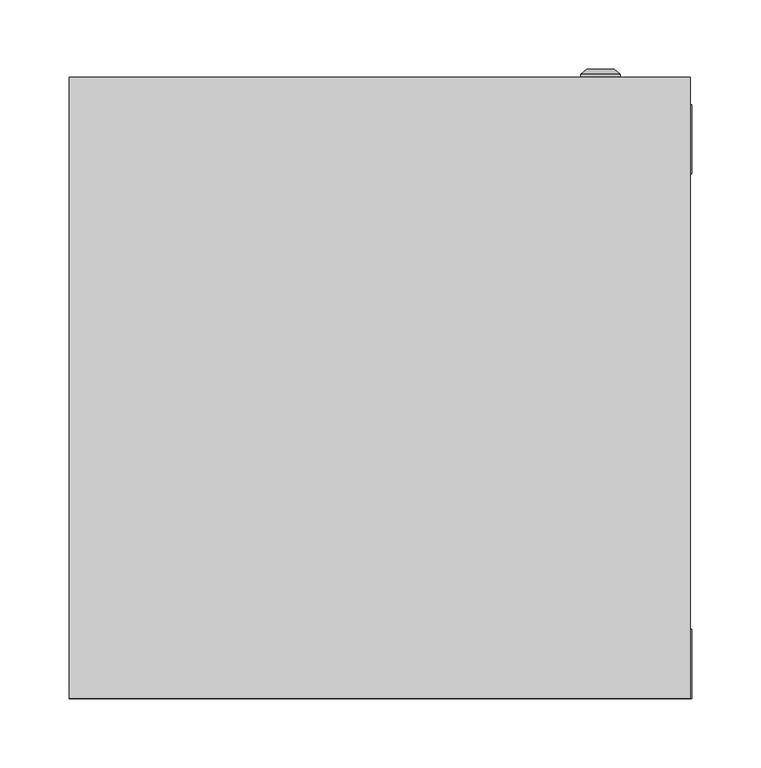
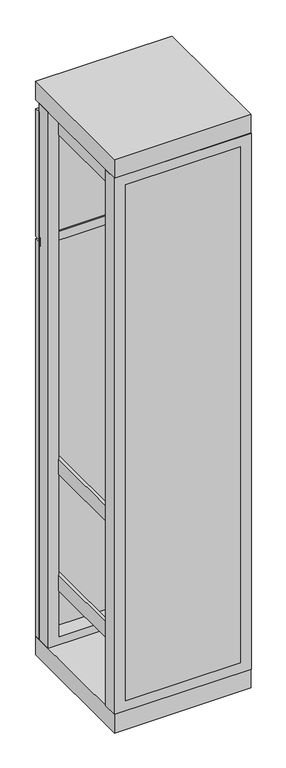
"""IFC4 building model written with IfcOpenShell, lengths in millimetres: proxy geometry, ВРУ-2 : ВРУ-2_2000х450х450."""

from ifc_helpers import new_model, si_unit, frame, origin, origin_with_axes, place, context, project, spatial, polyline, circle_curve, outline, extrude, source, transform, mapped, element, save
from ifc_brep_helpers import plane_surface, cylinder_surface, revolved_surface, advanced_brep


def electrical_equipment_1adb9329(model_context):
    return source(origin(), model_context, "Body", "SolidModel", [
        extrude(outline(polyline([(225.0, 425.0), (-225.0, 425.0), (-225.0, 430.0), (225.0, 430.0), (225.0, 425.0)])), frame((0.0, 0.0, 1440.0), z_axis=(0.0, 0.0, 1.0), x_axis=(1.0, 0.0, 0.0)), (0.0, 0.0, 1.0), 30.0),
        advanced_brep(
        [(145.669873, 450.0, 1680.0), (174.330127, 450.0, 1680.0), (160.0, 450.0, 1680.0), (145.669873, 452.366592, 1680.0), (174.330127, 452.366592, 1680.0), (150.0, 456.0, 1680.0), (170.0, 456.0, 1680.0), (158.1080471, 456.0, 1680.0), (161.8919529, 456.0, 1680.0), (158.1080471, 454.9822294, 1680.0), (161.8919529, 454.9822294, 1680.0), (160.0, 454.9822294, 1680.0)],
        [
            (0, 1, circle_curve(frame((160.0, 450.0, 1680.0), z_axis=(0.0, -1.0, 0.0), x_axis=(1.0, 0.0, 0.0)), 14.330127)),
            (1, 2),
            (2, 0),
            (1, 0, circle_curve(frame((160.0, 450.0, 1680.0), z_axis=(0.0, -1.0, 0.0), x_axis=(1.0, 0.0, 0.0)), 14.330127)),
            (3, 4, circle_curve(frame((160.0, 452.366592, 1680.0), z_axis=(0.0, -1.0, 0.0), x_axis=(1.0, 0.0, 0.0)), 14.330127)),
            (4, 1),
            (0, 3),
            (4, 3, circle_curve(frame((160.0, 452.366592, 1680.0), z_axis=(0.0, -1.0, 0.0), x_axis=(1.0, 0.0, 0.0)), 14.330127)),
            (5, 6, circle_curve(frame((160.0, 456.0, 1680.0), z_axis=(0.0, -1.0, 0.0), x_axis=(1.0, 0.0, 0.0)), 10.0)),
            (6, 4),
            (3, 5),
            (6, 5, circle_curve(frame((160.0, 456.0, 1680.0), z_axis=(0.0, -1.0, 0.0), x_axis=(1.0, 0.0, 0.0)), 10.0)),
            (7, 8, circle_curve(frame((160.0, 456.0, 1680.0), z_axis=(0.0, -1.0, 0.0), x_axis=(1.0, 0.0, 0.0)), 1.8919529)),
            (8, 6),
            (5, 7),
            (8, 7, circle_curve(frame((160.0, 456.0, 1680.0), z_axis=(0.0, -1.0, 0.0), x_axis=(1.0, 0.0, 0.0)), 1.8919529)),
            (9, 10, circle_curve(frame((160.0, 454.9822294, 1680.0), z_axis=(0.0, -1.0, 0.0), x_axis=(1.0, 0.0, 0.0)), 1.8919529)),
            (10, 8),
            (7, 9),
            (10, 9, circle_curve(frame((160.0, 454.9822294, 1680.0), z_axis=(0.0, -1.0, 0.0), x_axis=(1.0, 0.0, 0.0)), 1.8919529)),
            (11, 10),
            (9, 11),
        ],
        [
            plane_surface(frame((160.0, 450.0, 1680.0), z_axis=(0.0, -1.0, 0.0), x_axis=(1.0, 0.0, 0.0))),
            cylinder_surface(frame((160.0, 463.1348851, 1680.0), z_axis=(0.0, 1.0, 0.0), x_axis=(1.0, 0.0, 0.0)), 14.330127),
            revolved_surface(polyline([(174.330127, 452.366592, 1680.0), (170.0, 456.0, 1680.0)]), (160.0, 463.1348851, 1680.0), (0.0, 1.0, 0.0)),
            plane_surface(frame((160.0, 456.0, 1680.0), z_axis=(0.0, 1.0, 0.0), x_axis=(1.0, 0.0, 0.0))),
            revolved_surface(polyline([(161.8919529, 456.0, 1680.0), (161.8919529, 454.9822294, 1680.0)]), (160.0, 463.1348851, 1680.0), (0.0, 1.0, 0.0)),
            plane_surface(frame((160.0, 454.9822294, 1680.0), z_axis=(0.0, 1.0, 0.0), x_axis=(1.0, 0.0, 0.0))),
        ],
        [
            (0, [[1, 2, 3]]),
            (0, [[4, -3, -2]]),
            (1, [[5, 6, -1, 7]]),
            (1, [[8, -7, -4, -6]]),
            (2, [[9, 10, -5, 11]]),
            (2, [[12, -11, -8, -10]]),
            (3, [[13, 14, -9, 15]]),
            (3, [[16, -15, -12, -14]]),
            (4, [[17, 18, -13, 19]]),
            (4, [[20, -19, -16, -18]]),
            (5, [[21, -17, 22]]),
            (5, [[-22, -20, -21]]),
        ],
    ),
        extrude(outline(polyline([(225.0, 430.0), (-225.0, 430.0), (-225.0, 450.0), (225.0, 450.0), (225.0, 430.0)])), frame((0.0, 0.0, 1460.0), z_axis=(0.0, 0.0, 1.0), x_axis=(1.0, 0.0, 0.0)), (0.0, 0.0, 1.0), 445.0),
        extrude(outline(polyline([(190.8707865, 0.0), (-188.3426966, 0.0), (-188.3426966, 10.0), (190.8707865, 10.0), (190.8707865, 0.0)])), frame((0.0, 0.0, 99.1378449), z_axis=(0.0, 0.0, 1.0), x_axis=(1.0, 0.0, 0.0)), (0.0, 0.0, 1.0), 1799.6160511),
        extrude(outline(polyline([(-180.8707865, 125.9831461), (-140.8707865, 125.9831461), (-140.8707865, 93.1179775), (-143.8707865, 93.1179775), (-143.8707865, 122.9831461), (-177.8707865, 122.9831461), (-177.8707865, 93.1179775), (-180.8707865, 93.1179775), (-180.8707865, 125.9831461)])), frame((0.0, 0.0, 189.6067416), z_axis=(0.0, 0.0, 1.0), x_axis=(1.0, 0.0, 0.0)), (0.0, 0.0, 1.0), 1745.3932584),
        extrude(outline(polyline([(140.8707865, 125.9831461), (180.8707865, 125.9831461), (180.8707865, 93.1179775), (177.8707865, 93.1179775), (177.8707865, 122.9831461), (143.8707865, 122.9831461), (143.8707865, 93.1179775), (140.8707865, 93.1179775), (140.8707865, 125.9831461)])), frame((0.0, 0.0, 189.6067416), z_axis=(0.0, 0.0, 1.0), x_axis=(1.0, 0.0, 0.0)), (0.0, 0.0, 1.0), 1745.3932584),
        extrude(outline(polyline([(-180.8707865, 10.0), (-190.8707865, 10.0), (-190.8707865, 430.0), (-180.8707865, 430.0), (-180.8707865, 10.0)])), frame((0.0, 0.0, 1845.5966059), z_axis=(0.0, 0.0, 1.0), x_axis=(1.0, 0.0, 0.0)), (0.0, 0.0, 1.0), 53.0898876),
        extrude(outline(polyline([(190.8707865, 10.0), (180.8707865, 10.0), (180.8707865, 430.0), (190.8707865, 430.0), (190.8707865, 10.0)])), frame((0.0, 0.0, 1845.5966059), z_axis=(0.0, 0.0, 1.0), x_axis=(1.0, 0.0, 0.0)), (0.0, 0.0, 1.0), 53.0898876),
        extrude(outline(polyline([(-180.8707865, 10.0), (-190.8707865, 10.0), (-190.8707865, 430.0), (-180.8707865, 430.0), (-180.8707865, 10.0)])), frame((0.0, 0.0, 255.5966059), z_axis=(0.0, 0.0, 1.0), x_axis=(1.0, 0.0, 0.0)), (0.0, 0.0, 1.0), 53.0898876),
        extrude(outline(polyline([(190.8707865, 10.0), (180.8707865, 10.0), (180.8707865, 430.0), (190.8707865, 430.0), (190.8707865, 10.0)])), frame((0.0, 0.0, 255.5966059), z_axis=(0.0, 0.0, 1.0), x_axis=(1.0, 0.0, 0.0)), (0.0, 0.0, 1.0), 53.0898876),
        extrude(outline(polyline([(-180.8707865, 10.0), (-190.8707865, 10.0), (-190.8707865, 430.0), (-180.8707865, 430.0), (-180.8707865, 10.0)])), frame((0.0, 0.0, 660.5966059), z_axis=(0.0, 0.0, 1.0), x_axis=(1.0, 0.0, 0.0)), (0.0, 0.0, 1.0), 53.0898876),
        extrude(outline(polyline([(190.8707865, 0.0), (180.8707865, 0.0), (180.8707865, 430.0), (190.8707865, 430.0), (190.8707865, 0.0)])), frame((0.0, 0.0, 660.5966059), z_axis=(0.0, 0.0, 1.0), x_axis=(1.0, 0.0, 0.0)), (0.0, 0.0, 1.0), 53.0898876),
        extrude(outline(polyline([(1934.1471543, -225.0), (65.0187804, -225.0), (65.0187804, 226.2640449), (1934.1471543, 226.2640449), (1934.1471543, -225.0)]), holes=[polyline([(99.1378449, 190.8707865), (99.1378449, -188.3426966), (1898.7538959, -188.3426966), (1898.7538959, 190.8707865), (99.1378449, 190.8707865)])]), frame((0.0, 0.0, 0.0), z_axis=(0.0, 1.0, 0.0), x_axis=(0.0, 0.0, 1.0)), (0.0, 0.0, 1.0), 50.0),
        extrude(outline(polyline([(1935.0, -225.0), (65.0187804, -225.0), (65.0187804, 226.2640449), (1935.0, 226.2640449), (1935.0, -225.0)]), holes=[polyline([(93.3701084, 190.8707865), (93.3701084, -188.3426966), (1892.9861595, -188.3426966), (1892.9861595, 190.8707865), (93.3701084, 190.8707865)])]), frame((0.0, 380.0, 0.0), z_axis=(0.0, 1.0, 0.0), x_axis=(0.0, 0.0, 1.0)), (0.0, 0.0, 1.0), 50.0),
        extrude(outline(polyline([(225.0067809, 450.0), (225.0067809, 0.0), (-225.0, 0.0), (-225.0, 450.0), (225.0067809, 450.0)])), frame((0.0, 0.0, 1935.0), z_axis=(0.0, 0.0, 1.0), x_axis=(1.0, 0.0, 0.0)), (0.0, 0.0, 1.0), 65.0),
        advanced_brep(
        [(145.669873, 450.0, 375.0), (174.330127, 450.0, 375.0), (160.0, 450.0, 375.0), (145.669873, 452.366592, 375.0), (174.330127, 452.366592, 375.0), (150.0, 456.0, 375.0), (170.0, 456.0, 375.0), (158.1080471, 456.0, 375.0), (161.8919529, 456.0, 375.0), (158.1080471, 454.9822294, 375.0), (161.8919529, 454.9822294, 375.0), (160.0, 454.9822294, 375.0)],
        [
            (0, 1, circle_curve(frame((160.0, 450.0, 375.0), z_axis=(0.0, -1.0, 0.0), x_axis=(1.0, 0.0, 0.0)), 14.330127)),
            (1, 2),
            (2, 0),
            (1, 0, circle_curve(frame((160.0, 450.0, 375.0), z_axis=(0.0, -1.0, 0.0), x_axis=(1.0, 0.0, 0.0)), 14.330127)),
            (3, 4, circle_curve(frame((160.0, 452.366592, 375.0), z_axis=(0.0, -1.0, 0.0), x_axis=(1.0, 0.0, 0.0)), 14.330127)),
            (4, 1),
            (0, 3),
            (4, 3, circle_curve(frame((160.0, 452.366592, 375.0), z_axis=(0.0, -1.0, 0.0), x_axis=(1.0, 0.0, 0.0)), 14.330127)),
            (5, 6, circle_curve(frame((160.0, 456.0, 375.0), z_axis=(0.0, -1.0, 0.0), x_axis=(1.0, 0.0, 0.0)), 10.0)),
            (6, 4),
            (3, 5),
            (6, 5, circle_curve(frame((160.0, 456.0, 375.0), z_axis=(0.0, -1.0, 0.0), x_axis=(1.0, 0.0, 0.0)), 10.0)),
            (7, 8, circle_curve(frame((160.0, 456.0, 375.0), z_axis=(0.0, -1.0, 0.0), x_axis=(1.0, 0.0, 0.0)), 1.8919529)),
            (8, 6),
            (5, 7),
            (8, 7, circle_curve(frame((160.0, 456.0, 375.0), z_axis=(0.0, -1.0, 0.0), x_axis=(1.0, 0.0, 0.0)), 1.8919529)),
            (9, 10, circle_curve(frame((160.0, 454.9822294, 375.0), z_axis=(0.0, -1.0, 0.0), x_axis=(1.0, 0.0, 0.0)), 1.8919529)),
            (10, 8),
            (7, 9),
            (10, 9, circle_curve(frame((160.0, 454.9822294, 375.0), z_axis=(0.0, -1.0, 0.0), x_axis=(1.0, 0.0, 0.0)), 1.8919529)),
            (11, 10),
            (9, 11),
        ],
        [
            plane_surface(frame((160.0, 450.0, 375.0), z_axis=(0.0, -1.0, 0.0), x_axis=(1.0, 0.0, 0.0))),
            cylinder_surface(frame((160.0, 463.1348851, 375.0), z_axis=(0.0, 1.0, 0.0), x_axis=(1.0, 0.0, 0.0)), 14.330127),
            revolved_surface(polyline([(174.330127, 452.366592, 375.0), (170.0, 456.0, 375.0)]), (160.0, 463.1348851, 375.0), (0.0, 1.0, 0.0)),
            plane_surface(frame((160.0, 456.0, 375.0), z_axis=(0.0, 1.0, 0.0), x_axis=(1.0, 0.0, 0.0))),
            revolved_surface(polyline([(161.8919529, 456.0, 375.0), (161.8919529, 454.9822294, 375.0)]), (160.0, 463.1348851, 375.0), (0.0, 1.0, 0.0)),
            plane_surface(frame((160.0, 454.9822294, 375.0), z_axis=(0.0, 1.0, 0.0), x_axis=(1.0, 0.0, 0.0))),
        ],
        [
            (0, [[1, 2, 3]]),
            (0, [[4, -3, -2]]),
            (1, [[5, 6, -1, 7]]),
            (1, [[8, -7, -4, -6]]),
            (2, [[9, 10, -5, 11]]),
            (2, [[12, -11, -8, -10]]),
            (3, [[13, 14, -9, 15]]),
            (3, [[16, -15, -12, -14]]),
            (4, [[17, 18, -13, 19]]),
            (4, [[20, -19, -16, -18]]),
            (5, [[21, -17, 22]]),
            (5, [[-22, -20, -21]]),
        ],
    ),
        advanced_brep(
        [(145.669873, 450.0, 880.0), (174.330127, 450.0, 880.0), (160.0, 450.0, 880.0), (145.669873, 452.366592, 880.0), (174.330127, 452.366592, 880.0), (150.0, 456.0, 880.0), (170.0, 456.0, 880.0), (158.1080471, 456.0, 880.0), (161.8919529, 456.0, 880.0), (158.1080471, 454.9822294, 880.0), (161.8919529, 454.9822294, 880.0), (160.0, 454.9822294, 880.0)],
        [
            (0, 1, circle_curve(frame((160.0, 450.0, 880.0), z_axis=(0.0, -1.0, 0.0), x_axis=(1.0, 0.0, 0.0)), 14.330127)),
            (1, 2),
            (2, 0),
            (1, 0, circle_curve(frame((160.0, 450.0, 880.0), z_axis=(0.0, -1.0, 0.0), x_axis=(1.0, 0.0, 0.0)), 14.330127)),
            (3, 4, circle_curve(frame((160.0, 452.366592, 880.0), z_axis=(0.0, -1.0, 0.0), x_axis=(1.0, 0.0, 0.0)), 14.330127)),
            (4, 1),
            (0, 3),
            (4, 3, circle_curve(frame((160.0, 452.366592, 880.0), z_axis=(0.0, -1.0, 0.0), x_axis=(1.0, 0.0, 0.0)), 14.330127)),
            (5, 6, circle_curve(frame((160.0, 456.0, 880.0), z_axis=(0.0, -1.0, 0.0), x_axis=(1.0, 0.0, 0.0)), 10.0)),
            (6, 4),
            (3, 5),
            (6, 5, circle_curve(frame((160.0, 456.0, 880.0), z_axis=(0.0, -1.0, 0.0), x_axis=(1.0, 0.0, 0.0)), 10.0)),
            (7, 8, circle_curve(frame((160.0, 456.0, 880.0), z_axis=(0.0, -1.0, 0.0), x_axis=(1.0, 0.0, 0.0)), 1.8919529)),
            (8, 6),
            (5, 7),
            (8, 7, circle_curve(frame((160.0, 456.0, 880.0), z_axis=(0.0, -1.0, 0.0), x_axis=(1.0, 0.0, 0.0)), 1.8919529)),
            (9, 10, circle_curve(frame((160.0, 454.9822294, 880.0), z_axis=(0.0, -1.0, 0.0), x_axis=(1.0, 0.0, 0.0)), 1.8919529)),
            (10, 8),
            (7, 9),
            (10, 9, circle_curve(frame((160.0, 454.9822294, 880.0), z_axis=(0.0, -1.0, 0.0), x_axis=(1.0, 0.0, 0.0)), 1.8919529)),
            (11, 10),
            (9, 11),
        ],
        [
            plane_surface(frame((160.0, 450.0, 880.0), z_axis=(0.0, -1.0, 0.0), x_axis=(1.0, 0.0, 0.0))),
            cylinder_surface(frame((160.0, 463.1348851, 880.0), z_axis=(0.0, 1.0, 0.0), x_axis=(1.0, 0.0, 0.0)), 14.330127),
            revolved_surface(polyline([(174.330127, 452.366592, 880.0), (170.0, 456.0, 880.0)]), (160.0, 463.1348851, 880.0), (0.0, 1.0, 0.0)),
            plane_surface(frame((160.0, 456.0, 880.0), z_axis=(0.0, 1.0, 0.0), x_axis=(1.0, 0.0, 0.0))),
            revolved_surface(polyline([(161.8919529, 456.0, 880.0), (161.8919529, 454.9822294, 880.0)]), (160.0, 463.1348851, 880.0), (0.0, 1.0, 0.0)),
            plane_surface(frame((160.0, 454.9822294, 880.0), z_axis=(0.0, 1.0, 0.0), x_axis=(1.0, 0.0, 0.0))),
        ],
        [
            (0, [[1, 2, 3]]),
            (0, [[4, -3, -2]]),
            (1, [[5, 6, -1, 7]]),
            (1, [[8, -7, -4, -6]]),
            (2, [[9, 10, -5, 11]]),
            (2, [[12, -11, -8, -10]]),
            (3, [[13, 14, -9, 15]]),
            (3, [[16, -15, -12, -14]]),
            (4, [[17, 18, -13, 19]]),
            (4, [[20, -19, -16, -18]]),
            (5, [[21, -17, 22]]),
            (5, [[-22, -20, -21]]),
        ],
    ),
        extrude(outline(polyline([(225.0067809, 450.0), (225.0067809, 0.0), (-225.0, 0.0), (-225.0, 450.0), (225.0067809, 450.0)])), origin_with_axes(), (0.0, 0.0, 1.0), 65.0187804),
        extrude(outline(polyline([(225.0, 430.0), (-225.0, 430.0), (-225.0, 450.0), (225.0, 450.0), (225.0, 430.0)])), frame((0.0, 0.0, 65.0187804), z_axis=(0.0, 0.0, 1.0), x_axis=(1.0, 0.0, 0.0)), (0.0, 0.0, 1.0), 1384.9812196),
    ])


if __name__ == "__main__":
    model = new_model("IFC4")
    model_context = context("Model", 3, world=origin())
    ifc_project = project(units=[si_unit("LENGTHUNIT", "METRE", prefix="MILLI")], contexts=[model_context])
    site = spatial("IfcSite", under=ifc_project)
    building = spatial("IfcBuilding", under=site)
    placement = place(None, origin())
    electrical_equipment_shape = electrical_equipment_1adb9329(model_context)
    element("IfcBuildingElementProxy", 1, Name="ВРУ-2 : ВРУ-2_2000х450х450", ObjectType="ВРУ-2 : ВРУ-2_2000х450х450", at=placement, inside=building, context=model_context, shape_type="MappedRepresentation", body=[
        mapped(electrical_equipment_shape, transform((0.0, 0.0, 0.0), x_axis=(1.0, 0.0, 0.0), y_axis=(0.0, 1.0, 0.0), z_axis=(0.0, 0.0, 1.0))),
    ])
    save(model, "model.ifc")
